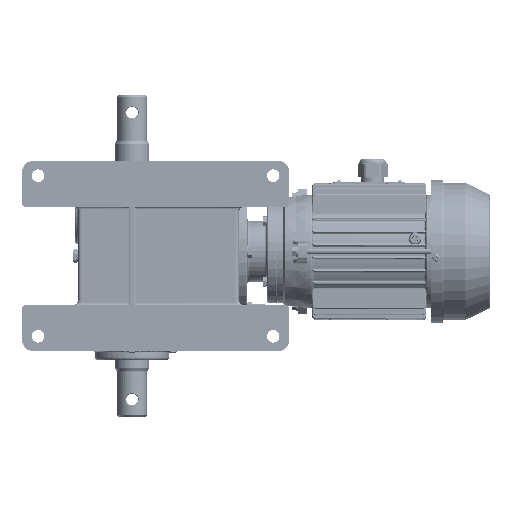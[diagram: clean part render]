
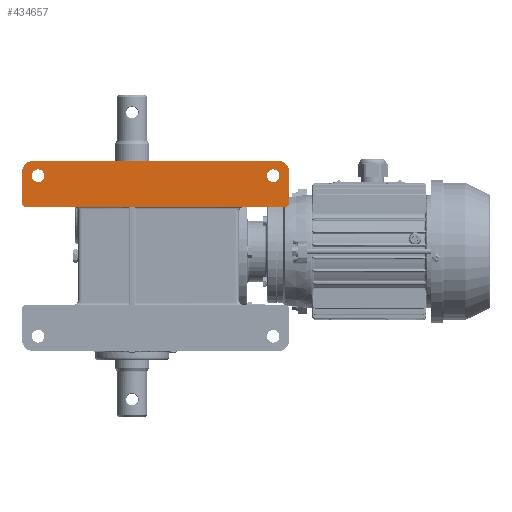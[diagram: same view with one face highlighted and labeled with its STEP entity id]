
A CAD part, left-side view. The second image highlights one B-rep face of the part: STEP entity #434657.
In plain terms, the highlighted planar face has unit normal (-1, 0, 0) as drawn and (0, 1, 0) by its records, which use the part's own axes.
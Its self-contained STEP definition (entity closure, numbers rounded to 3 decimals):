
#11095 = AXIS2_PLACEMENT_3D ( 'NONE', #86977, #235300, #18845 ) ;
#15022 = EDGE_CURVE ( 'NONE', #343031, #144253, #195392, .T. ) ;
#18845 = DIRECTION ( 'NONE',  ( 0., 0., -1. ) ) ;
#19385 = LINE ( 'NONE', #201746, #375889 ) ;
#27908 = CARTESIAN_POINT ( 'NONE',  ( -12., 60., -137. ) ) ;
#34345 = DIRECTION ( 'NONE',  ( 0., 0., -1. ) ) ;
#38053 = ORIENTED_EDGE ( 'NONE', *, *, #15022, .T. ) ;
#40151 = EDGE_CURVE ( 'NONE', #239223, #343031, #472220, .T. ) ;
#42465 = FACE_BOUND ( 'NONE', #160506, .T. ) ;
#44932 = DIRECTION ( 'NONE',  ( 0., 0., -1. ) ) ;
#45292 = CARTESIAN_POINT ( 'NONE',  ( -39., 60., -137. ) ) ;
#47951 = EDGE_CURVE ( 'NONE', #329983, #240603, #214308, .T. ) ;
#48176 = LINE ( 'NONE', #294565, #205041 ) ;
#50689 = CARTESIAN_POINT ( 'NONE',  ( -9., 60., -134. ) ) ;
#52716 = DIRECTION ( 'NONE',  ( 0., 0., 1. ) ) ;
#59097 = EDGE_CURVE ( 'NONE', #418133, #239223, #430527, .T. ) ;
#69824 = EDGE_CURVE ( 'NONE', #243363, #450813, #164091, .T. ) ;
#71730 = DIRECTION ( 'NONE',  ( 0., 0., -1. ) ) ;
#73267 = ORIENTED_EDGE ( 'NONE', *, *, #201480, .T. ) ;
#76472 = DIRECTION ( 'NONE',  ( 0., 0., -1. ) ) ;
#79616 = VERTEX_POINT ( 'NONE', #50689 ) ;
#86977 = CARTESIAN_POINT ( 'NONE',  ( -12., 60., 93. ) ) ;
#92438 = DIRECTION ( 'NONE',  ( 0., 1., 0. ) ) ;
#93590 = CIRCLE ( 'NONE', #287635, 5.5 ) ;
#94435 = ORIENTED_EDGE ( 'NONE', *, *, #368029, .F. ) ;
#104800 = DIRECTION ( 'NONE',  ( 0., 0., -1. ) ) ;
#108333 = CARTESIAN_POINT ( 'NONE',  ( -39., 60., -127. ) ) ;
#115141 = CARTESIAN_POINT ( 'NONE',  ( -36., 60., 76.5 ) ) ;
#115435 = DIRECTION ( 'NONE',  ( 0., 1., 0. ) ) ;
#116083 = VERTEX_POINT ( 'NONE', #152956 ) ;
#117500 = DIRECTION ( 'NONE',  ( 0., 1., 0. ) ) ;
#121544 = VERTEX_POINT ( 'NONE', #115141 ) ;
#127188 = AXIS2_PLACEMENT_3D ( 'NONE', #373045, #117500, #455675 ) ;
#133636 = DIRECTION ( 'NONE',  ( 1., 0., 0. ) ) ;
#142213 = CARTESIAN_POINT ( 'NONE',  ( -49., 60., -127. ) ) ;
#144253 = VERTEX_POINT ( 'NONE', #221055 ) ;
#152589 = AXIS2_PLACEMENT_3D ( 'NONE', #108333, #256614, #405062 ) ;
#152956 = CARTESIAN_POINT ( 'NONE',  ( -49., 60., 86. ) ) ;
#153061 = AXIS2_PLACEMENT_3D ( 'NONE', #337901, #260066, #333111 ) ;
#153949 = CIRCLE ( 'NONE', #449305, 10. ) ;
#154192 = CARTESIAN_POINT ( 'NONE',  ( -49., 60., 47. ) ) ;
#157916 = CARTESIAN_POINT ( 'NONE',  ( -12., 60., 96. ) ) ;
#160185 = CIRCLE ( 'NONE', #440258, 3. ) ;
#160506 = EDGE_LOOP ( 'NONE', ( #304158, #94435 ) ) ;
#164091 = CIRCLE ( 'NONE', #218172, 5.5 ) ;
#166960 = ORIENTED_EDGE ( 'NONE', *, *, #59097, .T. ) ;
#167520 = VERTEX_POINT ( 'NONE', #258360 ) ;
#172454 = CARTESIAN_POINT ( 'NONE',  ( -36., 60., 87.5 ) ) ;
#187480 = CARTESIAN_POINT ( 'NONE',  ( -36., 60., -123. ) ) ;
#191966 = ORIENTED_EDGE ( 'NONE', *, *, #442881, .T. ) ;
#195392 = LINE ( 'NONE', #263655, #230995 ) ;
#197618 = EDGE_CURVE ( 'NONE', #144253, #79616, #48176, .T. ) ;
#201480 = EDGE_CURVE ( 'NONE', #79616, #329983, #160185, .T. ) ;
#201746 = CARTESIAN_POINT ( 'NONE',  ( -49., 60., 96. ) ) ;
#203890 = CARTESIAN_POINT ( 'NONE',  ( -9., 60., 93. ) ) ;
#205041 = VECTOR ( 'NONE', #34345, 1000. ) ;
#214308 = LINE ( 'NONE', #360513, #406754 ) ;
#218172 = AXIS2_PLACEMENT_3D ( 'NONE', #385932, #305672, #52716 ) ;
#219956 = EDGE_CURVE ( 'NONE', #420651, #116083, #422964, .T. ) ;
#221055 = CARTESIAN_POINT ( 'NONE',  ( -9., 60., -98. ) ) ;
#230434 = CIRCLE ( 'NONE', #153061, 5.5 ) ;
#230995 = VECTOR ( 'NONE', #76472, 1000. ) ;
#235300 = DIRECTION ( 'NONE',  ( 0., 1., 0. ) ) ;
#239223 = VERTEX_POINT ( 'NONE', #203890 ) ;
#240603 = VERTEX_POINT ( 'NONE', #45292 ) ;
#243363 = VERTEX_POINT ( 'NONE', #477749 ) ;
#256614 = DIRECTION ( 'NONE',  ( 0., 1., 0. ) ) ;
#258360 = CARTESIAN_POINT ( 'NONE',  ( -39., 60., 96. ) ) ;
#259186 = ORIENTED_EDGE ( 'NONE', *, *, #261423, .F. ) ;
#260066 = DIRECTION ( 'NONE',  ( 0., 1., 0. ) ) ;
#260252 = CARTESIAN_POINT ( 'NONE',  ( -9., 60., 96. ) ) ;
#261423 = EDGE_CURVE ( 'NONE', #411489, #121544, #230434, .T. ) ;
#263655 = CARTESIAN_POINT ( 'NONE',  ( -9., 60., 96. ) ) ;
#268609 = ORIENTED_EDGE ( 'NONE', *, *, #219956, .T. ) ;
#270514 = ORIENTED_EDGE ( 'NONE', *, *, #377289, .T. ) ;
#276583 = ORIENTED_EDGE ( 'NONE', *, *, #356486, .F. ) ;
#283267 = DIRECTION ( 'NONE',  ( 0., 0., -1. ) ) ;
#287635 = AXIS2_PLACEMENT_3D ( 'NONE', #187480, #92438, #391575 ) ;
#294441 = AXIS2_PLACEMENT_3D ( 'NONE', #154192, #341518, #71730 ) ;
#294565 = CARTESIAN_POINT ( 'NONE',  ( -9., 60., 96. ) ) ;
#300421 = ORIENTED_EDGE ( 'NONE', *, *, #197618, .T. ) ;
#301075 = EDGE_LOOP ( 'NONE', ( #259186, #276583 ) ) ;
#304158 = ORIENTED_EDGE ( 'NONE', *, *, #69824, .F. ) ;
#305672 = DIRECTION ( 'NONE',  ( 0., 1., 0. ) ) ;
#319818 = CARTESIAN_POINT ( 'NONE',  ( -39., 60., 86. ) ) ;
#328898 = CIRCLE ( 'NONE', #127188, 5.5 ) ;
#329983 = VERTEX_POINT ( 'NONE', #27908 ) ;
#333111 = DIRECTION ( 'NONE',  ( 0., 0., 1. ) ) ;
#334315 = FACE_BOUND ( 'NONE', #301075, .T. ) ;
#335534 = CARTESIAN_POINT ( 'NONE',  ( -9., 60., 52. ) ) ;
#337901 = CARTESIAN_POINT ( 'NONE',  ( -36., 60., 82. ) ) ;
#341518 = DIRECTION ( 'NONE',  ( 0., -1., 0. ) ) ;
#343031 = VERTEX_POINT ( 'NONE', #335534 ) ;
#345863 = CARTESIAN_POINT ( 'NONE',  ( -36., 60., -128.5 ) ) ;
#350379 = EDGE_CURVE ( 'NONE', #240603, #420651, #478812, .T. ) ;
#356486 = EDGE_CURVE ( 'NONE', #121544, #411489, #328898, .T. ) ;
#360513 = CARTESIAN_POINT ( 'NONE',  ( -49., 60., -137. ) ) ;
#368029 = EDGE_CURVE ( 'NONE', #450813, #243363, #93590, .T. ) ;
#373045 = CARTESIAN_POINT ( 'NONE',  ( -36., 60., 82. ) ) ;
#375889 = VECTOR ( 'NONE', #133636, 1000. ) ;
#377289 = EDGE_CURVE ( 'NONE', #116083, #167520, #153949, .T. ) ;
#385932 = CARTESIAN_POINT ( 'NONE',  ( -36., 60., -123. ) ) ;
#391575 = DIRECTION ( 'NONE',  ( 0., 0., 1. ) ) ;
#394643 = VECTOR ( 'NONE', #452336, 1000. ) ;
#399319 = DIRECTION ( 'NONE',  ( -1., 0., 0. ) ) ;
#402326 = EDGE_LOOP ( 'NONE', ( #191966, #166960, #474411, #38053, #300421, #73267, #441370, #434528, #268609, #270514 ) ) ;
#404932 = PLANE ( 'NONE',  #294441 ) ;
#404972 = CARTESIAN_POINT ( 'NONE',  ( -12., 60., -134. ) ) ;
#405062 = DIRECTION ( 'NONE',  ( 0., 0., -1. ) ) ;
#406754 = VECTOR ( 'NONE', #399319, 1000. ) ;
#407343 = FACE_OUTER_BOUND ( 'NONE', #402326, .T. ) ;
#411489 = VERTEX_POINT ( 'NONE', #172454 ) ;
#412103 = VECTOR ( 'NONE', #104800, 1000. ) ;
#418133 = VERTEX_POINT ( 'NONE', #157916 ) ;
#420651 = VERTEX_POINT ( 'NONE', #142213 ) ;
#422964 = LINE ( 'NONE', #459548, #394643 ) ;
#430527 = CIRCLE ( 'NONE', #11095, 3. ) ;
#434528 = ORIENTED_EDGE ( 'NONE', *, *, #350379, .T. ) ;
#434657 = ADVANCED_FACE ( 'NONE', ( #407343, #334315, #42465 ), #404932, .F. ) ;
#440258 = AXIS2_PLACEMENT_3D ( 'NONE', #404972, #115435, #44932 ) ;
#441370 = ORIENTED_EDGE ( 'NONE', *, *, #47951, .T. ) ;
#442881 = EDGE_CURVE ( 'NONE', #167520, #418133, #19385, .T. ) ;
#449305 = AXIS2_PLACEMENT_3D ( 'NONE', #319818, #477812, #283267 ) ;
#450813 = VERTEX_POINT ( 'NONE', #345863 ) ;
#452336 = DIRECTION ( 'NONE',  ( 0., 0., 1. ) ) ;
#455675 = DIRECTION ( 'NONE',  ( 0., 0., 1. ) ) ;
#459548 = CARTESIAN_POINT ( 'NONE',  ( -49., 60., 96. ) ) ;
#472220 = LINE ( 'NONE', #260252, #412103 ) ;
#474411 = ORIENTED_EDGE ( 'NONE', *, *, #40151, .T. ) ;
#477749 = CARTESIAN_POINT ( 'NONE',  ( -36., 60., -117.5 ) ) ;
#477812 = DIRECTION ( 'NONE',  ( 0., 1., 0. ) ) ;
#478812 = CIRCLE ( 'NONE', #152589, 10. ) ;
